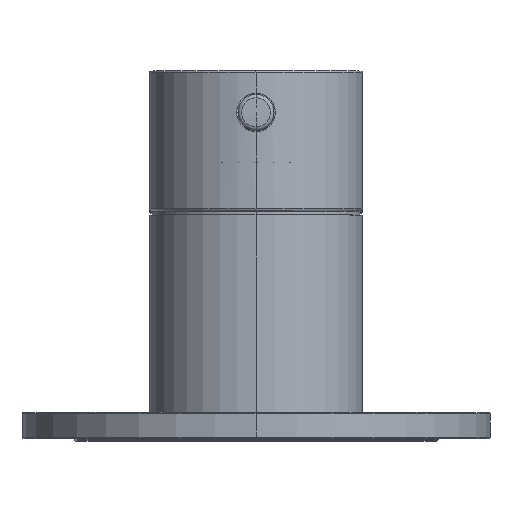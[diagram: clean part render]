
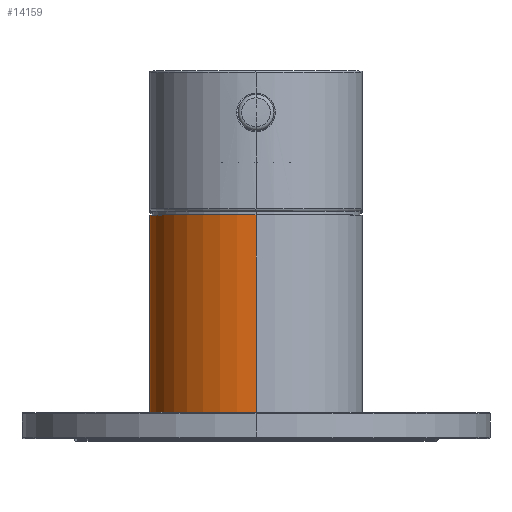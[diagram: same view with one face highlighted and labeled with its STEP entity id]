
A CAD part, top view. The second image highlights one B-rep face of the part: STEP entity #14159.
In plain terms, the highlighted cylindrical face has radius 20.5 mm (diameter 41 mm), a partial arc.
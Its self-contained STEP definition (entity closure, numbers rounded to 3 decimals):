
#10809=CARTESIAN_POINT('',(0.,0.,0.));
#10810=DIRECTION('',(0.,1.,0.));
#10811=DIRECTION('',(1.,0.,0.));
#10812=AXIS2_PLACEMENT_3D('',#10809,#10810,#10811);
#10829=DIRECTION('',(0.,1.,0.));
#10830=VECTOR('',#10829,43.);
#10831=CARTESIAN_POINT('',(20.5,-43.,0.));
#10832=LINE('',#10831,#10830);
#10833=DIRECTION('',(0.,1.,0.));
#10834=VECTOR('',#10833,43.);
#10835=CARTESIAN_POINT('',(-20.5,-43.,0.));
#10836=LINE('',#10835,#10834);
#10837=CARTESIAN_POINT('',(0.,-43.,0.));
#10838=DIRECTION('',(0.,1.,0.));
#10839=DIRECTION('',(1.,0.,0.));
#10840=AXIS2_PLACEMENT_3D('',#10837,#10838,#10839);
#11207=CARTESIAN_POINT('',(20.5,-43.,0.));
#11208=CARTESIAN_POINT('',(20.5,0.,0.));
#11209=VERTEX_POINT('',#11207);
#11210=VERTEX_POINT('',#11208);
#11211=CARTESIAN_POINT('',(-20.5,-43.,0.));
#11212=CARTESIAN_POINT('',(-20.5,0.,0.));
#11213=VERTEX_POINT('',#11211);
#11214=VERTEX_POINT('',#11212);
#14146=CARTESIAN_POINT('',(0.,2.15,0.));
#14147=DIRECTION('',(0.,-1.,0.));
#14148=DIRECTION('',(-1.,0.,0.));
#14149=AXIS2_PLACEMENT_3D('',#14146,#14147,#14148);
#14150=CYLINDRICAL_SURFACE('',#14149,20.5);
#14152=ORIENTED_EDGE('',*,*,#14151,.T.);
#14153=ORIENTED_EDGE('',*,*,#14134,.T.);
#14155=ORIENTED_EDGE('',*,*,#14154,.F.);
#14156=ORIENTED_EDGE('',*,*,#11946,.F.);
#14157=EDGE_LOOP('',(#14152,#14153,#14155,#14156));
#14158=FACE_OUTER_BOUND('',#14157,.F.);
#14159=ADVANCED_FACE('',(#14158),#14150,.T.);
#10813=CIRCLE('',#10812,20.5);
#10841=CIRCLE('',#10840,20.5);
#11946=EDGE_CURVE('',#11209,#11213,#10841,.T.);
#14134=EDGE_CURVE('',#11210,#11214,#10813,.T.);
#14151=EDGE_CURVE('',#11209,#11210,#10832,.T.);
#14154=EDGE_CURVE('',#11213,#11214,#10836,.T.);
